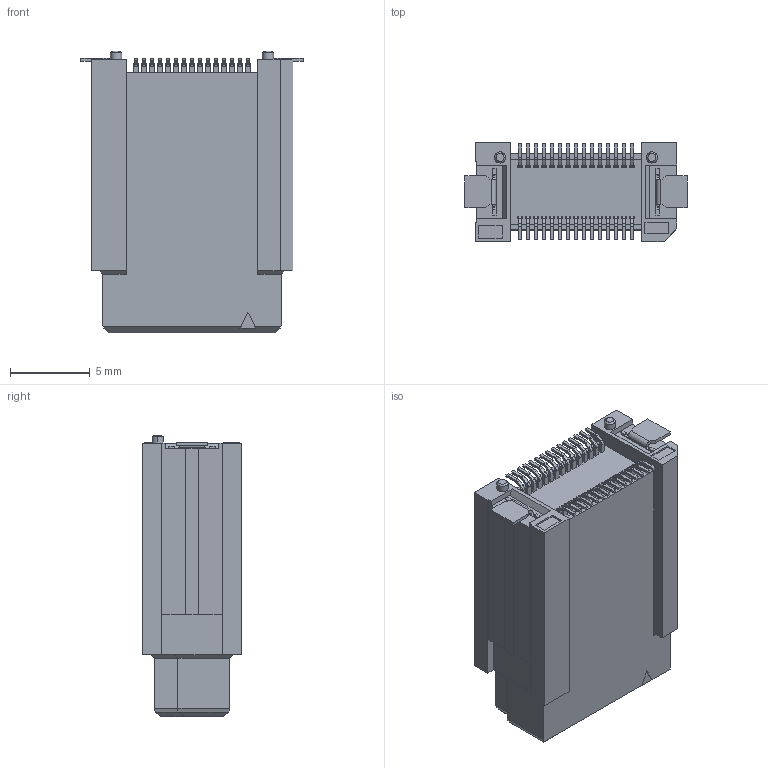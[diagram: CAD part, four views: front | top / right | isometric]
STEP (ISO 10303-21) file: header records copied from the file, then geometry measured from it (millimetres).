
FILE_DESCRIPTION(('Creo Elements/Direct Modeling STEP Export'),'2;1');
FILE_NAME('P3D464_DT11-030S-19-T.stp','2022-03-16T11:14:44',(''),(''),'Creo Elements/Direct Modeling STEP processor for AP214 (Solid Model)','Creo Elements/Direct Modeling 20.4A 18-Oct-2021 (C) Parametric Technology GmbH','');
FILE_SCHEMA(('AUTOMOTIVE_DESIGN { 1 0 10303 214 1 1 1 1 }'));
Length unit declared in the file: millimetre
Products named in the file (2): DT11-030S-19-T
Assembly tree (1 placements, depth 2):
  DT11-030S-19-T
    DT11-030S-19-T
Bounding box: 13.9 x 6.2 x 17.63 mm (x, y, z)
Volume: 985.7 mm3; surface area: 936 mm2
Topology: 1 solids, 1 shells, 1043 faces, 2938 edges, 1936 vertices
Faces by surface type: plane 843, cylinder 196, cone 4
Entity records: 33174 total; most frequent: ORIENTED_EDGE 5876, CARTESIAN_POINT 5842, DIRECTION 5400, EDGE_CURVE 2938, VECTOR 2412, LINE 2412, VERTEX_POINT 1936, AXIS2_PLACEMENT_3D 1494
